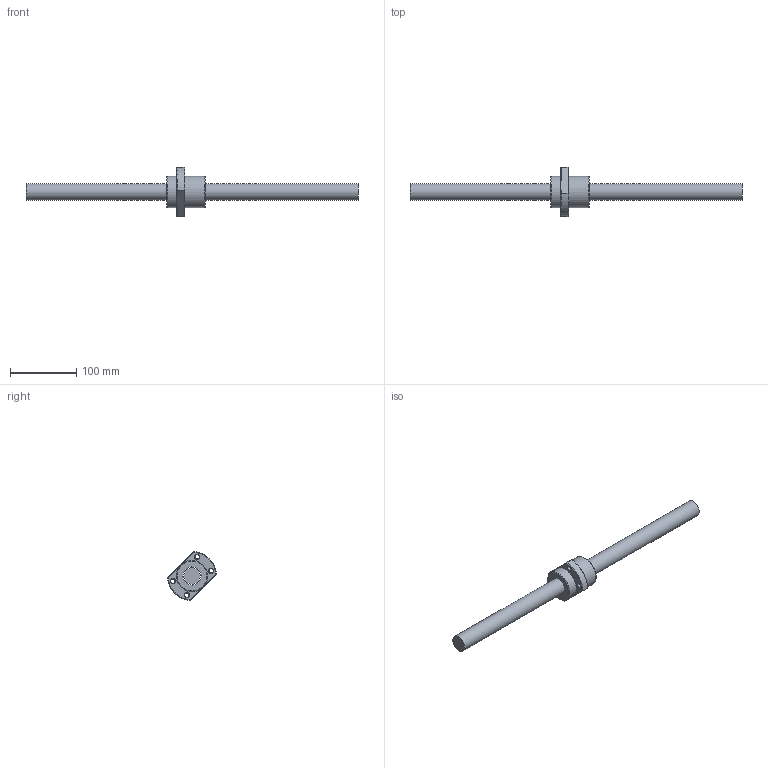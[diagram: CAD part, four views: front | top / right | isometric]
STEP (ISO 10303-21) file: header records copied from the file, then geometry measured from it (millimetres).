
FILE_DESCRIPTION (( 'STEP AP203' ), '1' );
FILE_NAME ('SFY02550-1.6.step', '2024-05-21T08:57:02', ( '' ), ( '' ), 'SwSTEP 2.0', 'SolidWorks 2022', '' );
FILE_SCHEMA (( 'CONFIG_CONTROL_DESIGN' ));
Length unit declared in the file: millimetre
Products named in the file (1): SFY02550-1.6
Bounding box: 500 x 73.86 x 73.86 mm (x, y, z)
Volume: 328617.2 mm3; surface area: 60854.2 mm2
Topology: 2 solids, 2 shells, 50 faces, 120 edges, 76 vertices
Faces by surface type: cylinder 17, plane 13, cone 9, torus 6, bspline 5
Full cylindrical faces by diameter (mm): 3.8 x1, 5 x5, 6.6 x4, 25 x1, 27.5 x1, 47 x2
Entity records: 3005 total; most frequent: CARTESIAN_POINT 2044, DIRECTION 170, ORIENTED_EDGE 156, EDGE_LOOP 80, EDGE_CURVE 78, AXIS2_PLACEMENT_3D 77, VERTEX_POINT 62, FACE_OUTER_BOUND 57
